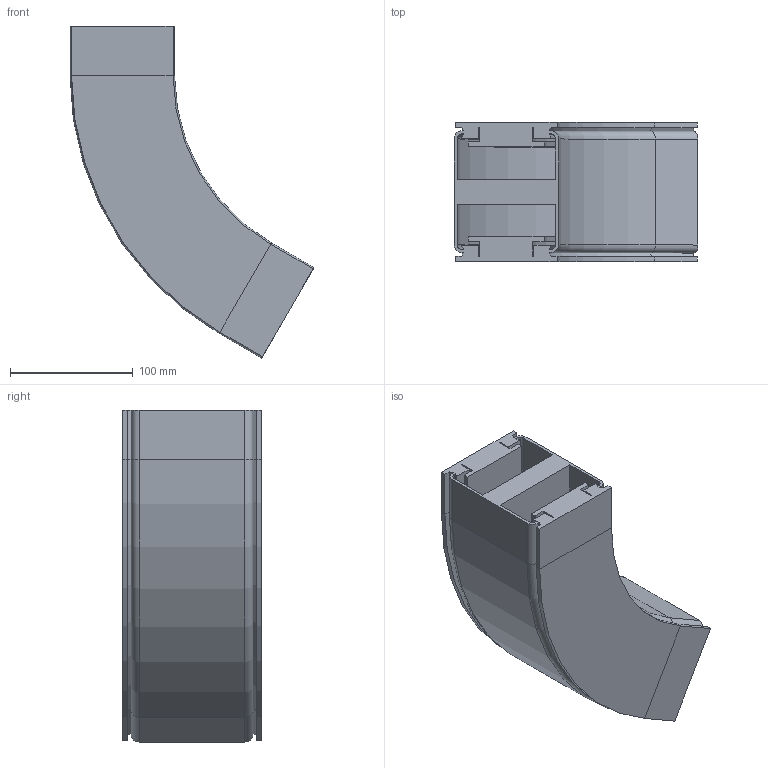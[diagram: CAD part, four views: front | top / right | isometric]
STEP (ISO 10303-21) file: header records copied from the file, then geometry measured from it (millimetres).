
FILE_DESCRIPTION (( 'STEP AP214' ), '1' );
FILE_NAME ('VC.85 Horizontale bochtsectie R200 60°.STEP', '2016-10-19T07:04:35', ( '' ), ( '' ), 'SwSTEP 2.0', 'SolidWorks 2016', '' );
FILE_SCHEMA (( 'AUTOMOTIVE_DESIGN' ));
Length unit declared in the file: millimetre
Products named in the file (1): VC.85 Horizontale bochtsectie R200 60°
Bounding box: 198.39 x 113 x 270.01 mm (x, y, z)
Volume: 1379795.8 mm3; surface area: 324649 mm2
Topology: 1 solids, 1 shells, 206 faces, 476 edges, 272 vertices
Faces by surface type: plane 152, cylinder 38, cone 8, torus 8
Entity records: 5674 total; most frequent: DIRECTION 990, CARTESIAN_POINT 955, ORIENTED_EDGE 952, EDGE_CURVE 476, VECTOR 376, LINE 376, AXIS2_PLACEMENT_3D 307, VERTEX_POINT 272
